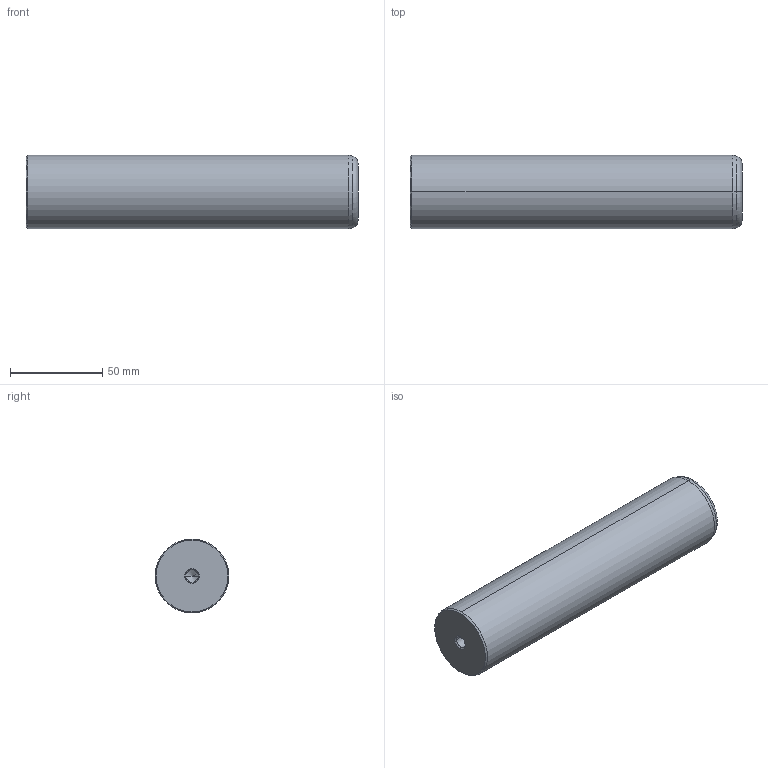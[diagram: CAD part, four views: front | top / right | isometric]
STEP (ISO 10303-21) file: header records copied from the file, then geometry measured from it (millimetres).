
FILE_DESCRIPTION(('CATIA V5 STEP Exchange'),'2;1');
FILE_NAME('C:\Users\Utente\Desktop\IO LAVORO\3D X SITO CF\X SITO\720\720-40x180.stp','2020-12-30T22:00:53+00:00',('none'),('none'),'CATIA Version 5 Release 20 GA (IN-10)','CATIA V5 STEP AP203','none');
FILE_SCHEMA(('CONFIG_CONTROL_DESIGN'));
Length unit declared in the file: millimetre
Products named in the file (1): 720-40x180
Bounding box: 180 x 40 x 40 mm (x, y, z)
Volume: 223820.9 mm3; surface area: 25803.6 mm2
Topology: 1 solids, 1 shells, 22 faces, 56 edges, 34 vertices
Faces by surface type: cone 12, cylinder 6, plane 2, torus 2
Entity records: 755 total; most frequent: CARTESIAN_POINT 216, ORIENTED_EDGE 104, DIRECTION 89, EDGE_CURVE 52, AXIS2_PLACEMENT_3D 50, VERTEX_POINT 34, CIRCLE 27, EDGE_LOOP 24
